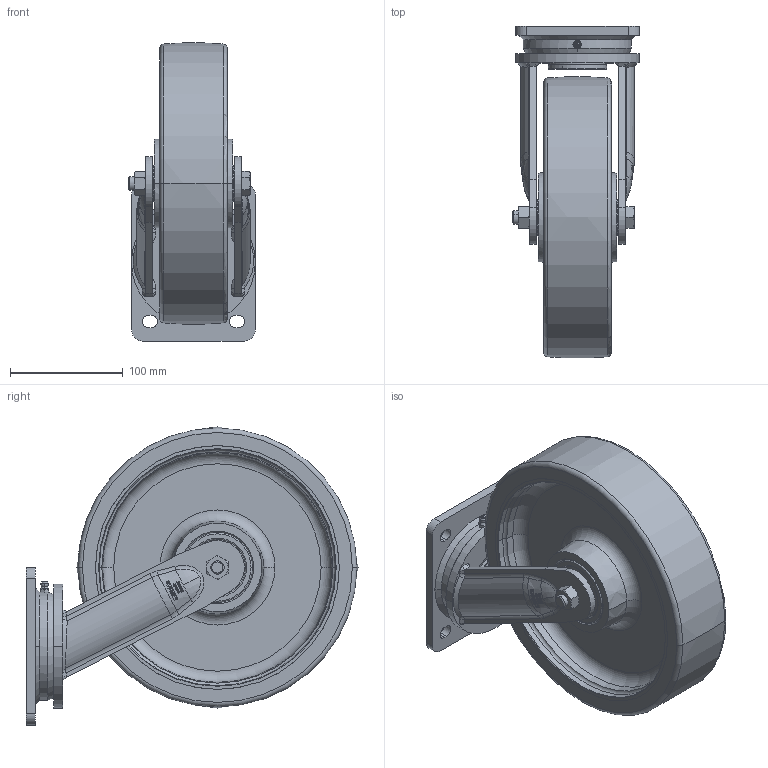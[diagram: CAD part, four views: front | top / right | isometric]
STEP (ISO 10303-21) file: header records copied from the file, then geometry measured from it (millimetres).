
FILE_DESCRIPTION (( 'STEP AP214' ), '1' );
FILE_NAME ('LO-GTH_250K_267179-214.step', '2022-01-08T23:27:52', ( '' ), ( '' ), 'SwSTEP 2.0', 'SolidWorks 2018', '' );
FILE_SCHEMA (( 'AUTOMOTIVE_DESIGN' ));
Length unit declared in the file: millimetre
Products named in the file (5): GTH_3D_G16_GTH_250_25K_266874; GH-LO_125-250_GH-LO-250x070-03-VB-12_25x70; GTH_250_25K_G16_3D; LO-GTH_250K_267179-214; GH-LO-250x070-03-VB-12_25x70_G16_3D
Assembly tree (4 placements, depth 3):
  LO-GTH_250K_267179-214
    GH-LO_125-250_GH-LO-250x070-03-VB-12_25x70
      GH-LO-250x070-03-VB-12_25x70_G16_3D
    GTH_3D_G16_GTH_250_25K_266874
      GTH_250_25K_G16_3D
Bounding box: 112.5 x 294.87 x 264.87 mm (x, y, z)
Volume: 1924910.2 mm3; surface area: 314120.4 mm2
Topology: 2 solids, 5 shells, 2084 faces, 5529 edges, 3599 vertices
Faces by surface type: plane 922, bspline 722, cone 184, cylinder 154, torus 94, sphere 8
Entity records: 86980 total; most frequent: CARTESIAN_POINT 33866, ORIENTED_EDGE 10998, DIRECTION 7017, EDGE_CURVE 5499, VERTEX_POINT 3590, LINE 2457, VECTOR 2457, AXIS2_PLACEMENT_3D 2280
